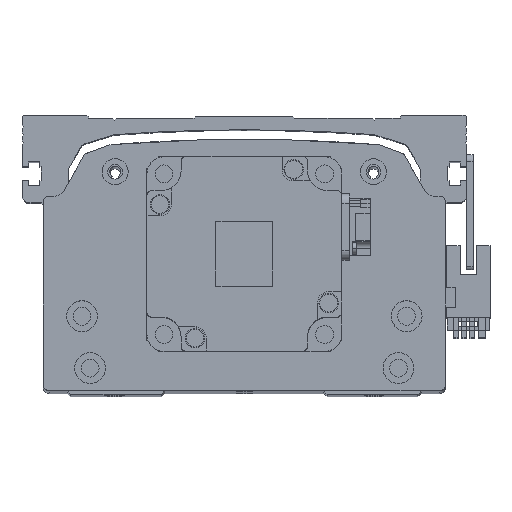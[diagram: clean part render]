
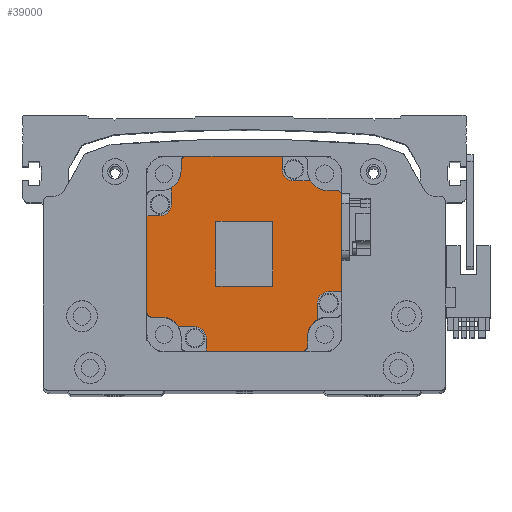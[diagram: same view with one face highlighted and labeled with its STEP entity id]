
A CAD part, top view. The second image highlights one B-rep face of the part: STEP entity #39000.
In plain terms, the highlighted planar face has unit normal (0, 0, 1) as drawn and (0, 0, -1) by its records, which use the part's own axes.
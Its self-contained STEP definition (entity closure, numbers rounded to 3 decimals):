
#36230=CARTESIAN_POINT('',(30.,-30.,-80.));
#36240=DIRECTION('',(0.,0.,-1.));
#36250=DIRECTION('',(-1.,0.,0.));
#36260=AXIS2_PLACEMENT_3D('',#36230,#36240,#36250);
#36270=PLANE('',#36260);
#36280=CARTESIAN_POINT('',(10.,-30.,-80.));
#36290=DIRECTION('',(0.,1.,0.));
#36300=VECTOR('',#36290,1000.);
#36310=LINE('',#36280,#36300);
#36320=CARTESIAN_POINT('',(10.,-8.75,-80.));
#36330=VERTEX_POINT('',#36320);
#36340=CARTESIAN_POINT('',(10.,8.75,-80.));
#36350=VERTEX_POINT('',#36340);
#36360=EDGE_CURVE('',#36330,#36350,#36310,.T.);
#36370=ORIENTED_EDGE('',*,*,#36360,.T.);
#36380=CARTESIAN_POINT('',(30.,-8.75,-80.));
#36390=DIRECTION('',(1.,-0.,0.));
#36400=VECTOR('',#36390,1000.);
#36410=LINE('',#36380,#36400);
#36420=CARTESIAN_POINT('',(-10.,-8.75,-80.));
#36430=VERTEX_POINT('',#36420);
#36440=EDGE_CURVE('',#36430,#36330,#36410,.T.);
#36450=ORIENTED_EDGE('',*,*,#36440,.T.);
#36460=CARTESIAN_POINT('',(-10.,-30.,-80.));
#36470=DIRECTION('',(-0.,-1.,-0.));
#36480=VECTOR('',#36470,1000.);
#36490=LINE('',#36460,#36480);
#36500=CARTESIAN_POINT('',(-10.,8.75,-80.));
#36510=VERTEX_POINT('',#36500);
#36520=EDGE_CURVE('',#36510,#36430,#36490,.T.);
#36530=ORIENTED_EDGE('',*,*,#36520,.T.);
#36540=CARTESIAN_POINT('',(30.,8.75,-80.));
#36550=DIRECTION('',(-1.,0.,-0.));
#36560=VECTOR('',#36550,1000.);
#36570=LINE('',#36540,#36560);
#36580=EDGE_CURVE('',#36350,#36510,#36570,.T.);
#36590=ORIENTED_EDGE('',*,*,#36580,.T.);
#36600=EDGE_LOOP('',(#36590,#36530,#36450,#36370));
#36610=FACE_BOUND('',#36600,.T.);
#36620=CARTESIAN_POINT('',(18.,28.5,-80.));
#36630=DIRECTION('',(0.,0.,-1.));
#36640=DIRECTION('',(-1.,0.,0.));
#36650=AXIS2_PLACEMENT_3D('',#36620,#36630,#36640);
#36660=CIRCLE('',#36650,1.5);
#36670=CARTESIAN_POINT('',(18.,30.,-80.));
#36680=VERTEX_POINT('',#36670);
#36690=CARTESIAN_POINT('',(19.5,28.5,-80.));
#36700=VERTEX_POINT('',#36690);
#36710=EDGE_CURVE('',#36680,#36700,#36660,.T.);
#36720=ORIENTED_EDGE('',*,*,#36710,.T.);
#36730=CARTESIAN_POINT('',(30.,30.,-80.));
#36740=DIRECTION('',(1.,-0.,0.));
#36750=VECTOR('',#36740,1000.);
#36760=LINE('',#36730,#36750);
#36770=CARTESIAN_POINT('',(-11.7,30.,-80.));
#36780=VERTEX_POINT('',#36770);
#36790=EDGE_CURVE('',#36780,#36680,#36760,.T.);
#36800=ORIENTED_EDGE('',*,*,#36790,.T.);
#36810=CARTESIAN_POINT('',(-11.7,-30.,-80.));
#36820=DIRECTION('',(0.,1.,0.));
#36830=VECTOR('',#36820,1000.);
#36840=LINE('',#36810,#36830);
#36850=CARTESIAN_POINT('',(-11.7,26.,-80.));
#36860=VERTEX_POINT('',#36850);
#36870=EDGE_CURVE('',#36860,#36780,#36840,.T.);
#36880=ORIENTED_EDGE('',*,*,#36870,.T.);
#36890=CARTESIAN_POINT('',(-15.2,26.,-80.));
#36900=DIRECTION('',(-0.,-0.,1.));
#36910=DIRECTION('',(-1.,0.,0.));
#36920=AXIS2_PLACEMENT_3D('',#36890,#36900,#36910);
#36930=CIRCLE('',#36920,3.5);
#36940=CARTESIAN_POINT('',(-15.2,22.5,-80.));
#36950=VERTEX_POINT('',#36940);
#36960=EDGE_CURVE('',#36950,#36860,#36930,.T.);
#36970=ORIENTED_EDGE('',*,*,#36960,.T.);
#36980=CARTESIAN_POINT('',(30.,22.5,-80.));
#36990=DIRECTION('',(1.,-0.,0.));
#37000=VECTOR('',#36990,1000.);
#37010=LINE('',#36980,#37000);
#37020=CARTESIAN_POINT('',(-20.304,22.5,-80.));
#37030=VERTEX_POINT('',#37020);
#37040=EDGE_CURVE('',#37030,#36950,#37010,.T.);
#37050=ORIENTED_EDGE('',*,*,#37040,.T.);
#37060=CARTESIAN_POINT('',(-25.5,25.5,-80.));
#37070=DIRECTION('',(-0.,-0.,1.));
#37080=DIRECTION('',(-1.,0.,0.));
#37090=AXIS2_PLACEMENT_3D('',#37060,#37070,#37080);
#37100=CIRCLE('',#37090,6.);
#37110=CARTESIAN_POINT('',(-25.5,19.5,-80.));
#37120=VERTEX_POINT('',#37110);
#37130=EDGE_CURVE('',#37120,#37030,#37100,.T.);
#37140=ORIENTED_EDGE('',*,*,#37130,.T.);
#37150=CARTESIAN_POINT('',(30.,19.5,-80.));
#37160=DIRECTION('',(1.,-0.,0.));
#37170=VECTOR('',#37160,1000.);
#37180=LINE('',#37150,#37170);
#37190=CARTESIAN_POINT('',(-28.5,19.5,-80.));
#37200=VERTEX_POINT('',#37190);
#37210=EDGE_CURVE('',#37200,#37120,#37180,.T.);
#37220=ORIENTED_EDGE('',*,*,#37210,.T.);
#37230=CARTESIAN_POINT('',(-28.5,18.,-80.));
#37240=DIRECTION('',(0.,0.,-1.));
#37250=DIRECTION('',(-1.,0.,0.));
#37260=AXIS2_PLACEMENT_3D('',#37230,#37240,#37250);
#37270=CIRCLE('',#37260,1.5);
#37280=CARTESIAN_POINT('',(-30.,18.,-80.));
#37290=VERTEX_POINT('',#37280);
#37300=EDGE_CURVE('',#37290,#37200,#37270,.T.);
#37310=ORIENTED_EDGE('',*,*,#37300,.T.);
#37320=CARTESIAN_POINT('',(-30.,-30.,-80.));
#37330=DIRECTION('',(0.,1.,0.));
#37340=VECTOR('',#37330,1000.);
#37350=LINE('',#37320,#37340);
#37360=CARTESIAN_POINT('',(-30.,-11.7,-80.));
#37370=VERTEX_POINT('',#37360);
#37380=EDGE_CURVE('',#37370,#37290,#37350,.T.);
#37390=ORIENTED_EDGE('',*,*,#37380,.T.);
#37400=CARTESIAN_POINT('',(30.,-11.7,-80.));
#37410=DIRECTION('',(-1.,0.,-0.));
#37420=VECTOR('',#37410,1000.);
#37430=LINE('',#37400,#37420);
#37440=CARTESIAN_POINT('',(-26.,-11.7,-80.));
#37450=VERTEX_POINT('',#37440);
#37460=EDGE_CURVE('',#37450,#37370,#37430,.T.);
#37470=ORIENTED_EDGE('',*,*,#37460,.T.);
#37480=CARTESIAN_POINT('',(-26.,-15.2,-80.));
#37490=DIRECTION('',(-0.,-0.,1.));
#37500=DIRECTION('',(-1.,0.,0.));
#37510=AXIS2_PLACEMENT_3D('',#37480,#37490,#37500);
#37520=CIRCLE('',#37510,3.5);
#37530=CARTESIAN_POINT('',(-22.5,-15.2,-80.));
#37540=VERTEX_POINT('',#37530);
#37550=EDGE_CURVE('',#37540,#37450,#37520,.T.);
#37560=ORIENTED_EDGE('',*,*,#37550,.T.);
#37570=CARTESIAN_POINT('',(-22.5,-30.,-80.));
#37580=DIRECTION('',(0.,1.,0.));
#37590=VECTOR('',#37580,1000.);
#37600=LINE('',#37570,#37590);
#37610=CARTESIAN_POINT('',(-22.5,-20.304,-80.));
#37620=VERTEX_POINT('',#37610);
#37630=EDGE_CURVE('',#37620,#37540,#37600,.T.);
#37640=ORIENTED_EDGE('',*,*,#37630,.T.);
#37650=CARTESIAN_POINT('',(-25.5,-25.5,-80.));
#37660=DIRECTION('',(-0.,-0.,1.));
#37670=DIRECTION('',(-1.,0.,0.));
#37680=AXIS2_PLACEMENT_3D('',#37650,#37660,#37670);
#37690=CIRCLE('',#37680,6.);
#37700=CARTESIAN_POINT('',(-19.5,-25.5,-80.));
#37710=VERTEX_POINT('',#37700);
#37720=EDGE_CURVE('',#37710,#37620,#37690,.T.);
#37730=ORIENTED_EDGE('',*,*,#37720,.T.);
#37740=CARTESIAN_POINT('',(-19.5,-30.,-80.));
#37750=DIRECTION('',(0.,1.,0.));
#37760=VECTOR('',#37750,1000.);
#37770=LINE('',#37740,#37760);
#37780=CARTESIAN_POINT('',(-19.5,-28.5,-80.));
#37790=VERTEX_POINT('',#37780);
#37800=EDGE_CURVE('',#37790,#37710,#37770,.T.);
#37810=ORIENTED_EDGE('',*,*,#37800,.T.);
#37820=CARTESIAN_POINT('',(-18.,-28.5,-80.));
#37830=DIRECTION('',(0.,0.,-1.));
#37840=DIRECTION('',(-1.,0.,0.));
#37850=AXIS2_PLACEMENT_3D('',#37820,#37830,#37840);
#37860=CIRCLE('',#37850,1.5);
#37870=CARTESIAN_POINT('',(-18.,-30.,-80.));
#37880=VERTEX_POINT('',#37870);
#37890=EDGE_CURVE('',#37880,#37790,#37860,.T.);
#37900=ORIENTED_EDGE('',*,*,#37890,.T.);
#37910=CARTESIAN_POINT('',(30.,-30.,-80.));
#37920=DIRECTION('',(-1.,0.,-0.));
#37930=VECTOR('',#37920,1000.);
#37940=LINE('',#37910,#37930);
#37950=CARTESIAN_POINT('',(11.7,-30.,-80.));
#37960=VERTEX_POINT('',#37950);
#37970=EDGE_CURVE('',#37960,#37880,#37940,.T.);
#37980=ORIENTED_EDGE('',*,*,#37970,.T.);
#37990=CARTESIAN_POINT('',(11.7,-30.,-80.));
#38000=DIRECTION('',(-0.,-1.,-0.));
#38010=VECTOR('',#38000,1000.);
#38020=LINE('',#37990,#38010);
#38030=CARTESIAN_POINT('',(11.7,-26.,-80.));
#38040=VERTEX_POINT('',#38030);
#38050=EDGE_CURVE('',#38040,#37960,#38020,.T.);
#38060=ORIENTED_EDGE('',*,*,#38050,.T.);
#38070=CARTESIAN_POINT('',(15.2,-26.,-80.));
#38080=DIRECTION('',(-0.,-0.,1.));
#38090=DIRECTION('',(-1.,0.,0.));
#38100=AXIS2_PLACEMENT_3D('',#38070,#38080,#38090);
#38110=CIRCLE('',#38100,3.5);
#38120=CARTESIAN_POINT('',(15.2,-22.5,-80.));
#38130=VERTEX_POINT('',#38120);
#38140=EDGE_CURVE('',#38130,#38040,#38110,.T.);
#38150=ORIENTED_EDGE('',*,*,#38140,.T.);
#38160=CARTESIAN_POINT('',(30.,-22.5,-80.));
#38170=DIRECTION('',(-1.,0.,-0.));
#38180=VECTOR('',#38170,1000.);
#38190=LINE('',#38160,#38180);
#38200=CARTESIAN_POINT('',(20.304,-22.5,-80.));
#38210=VERTEX_POINT('',#38200);
#38220=EDGE_CURVE('',#38210,#38130,#38190,.T.);
#38230=ORIENTED_EDGE('',*,*,#38220,.T.);
#38240=CARTESIAN_POINT('',(25.5,-25.5,-80.));
#38250=DIRECTION('',(-0.,-0.,1.));
#38260=DIRECTION('',(-1.,0.,0.));
#38270=AXIS2_PLACEMENT_3D('',#38240,#38250,#38260);
#38280=CIRCLE('',#38270,6.);
#38290=CARTESIAN_POINT('',(25.5,-19.5,-80.));
#38300=VERTEX_POINT('',#38290);
#38310=EDGE_CURVE('',#38300,#38210,#38280,.T.);
#38320=ORIENTED_EDGE('',*,*,#38310,.T.);
#38330=CARTESIAN_POINT('',(30.,-19.5,-80.));
#38340=DIRECTION('',(-1.,0.,-0.));
#38350=VECTOR('',#38340,1000.);
#38360=LINE('',#38330,#38350);
#38370=CARTESIAN_POINT('',(28.5,-19.5,-80.));
#38380=VERTEX_POINT('',#38370);
#38390=EDGE_CURVE('',#38380,#38300,#38360,.T.);
#38400=ORIENTED_EDGE('',*,*,#38390,.T.);
#38410=CARTESIAN_POINT('',(28.5,-18.,-80.));
#38420=DIRECTION('',(0.,0.,-1.));
#38430=DIRECTION('',(-1.,0.,0.));
#38440=AXIS2_PLACEMENT_3D('',#38410,#38420,#38430);
#38450=CIRCLE('',#38440,1.5);
#38460=CARTESIAN_POINT('',(30.,-18.,-80.));
#38470=VERTEX_POINT('',#38460);
#38480=EDGE_CURVE('',#38470,#38380,#38450,.T.);
#38490=ORIENTED_EDGE('',*,*,#38480,.T.);
#38500=CARTESIAN_POINT('',(30.,-30.,-80.));
#38510=DIRECTION('',(-0.,-1.,-0.));
#38520=VECTOR('',#38510,1000.);
#38530=LINE('',#38500,#38520);
#38540=CARTESIAN_POINT('',(30.,11.7,-80.));
#38550=VERTEX_POINT('',#38540);
#38560=EDGE_CURVE('',#38550,#38470,#38530,.T.);
#38570=ORIENTED_EDGE('',*,*,#38560,.T.);
#38580=CARTESIAN_POINT('',(30.,11.7,-80.));
#38590=DIRECTION('',(1.,-0.,0.));
#38600=VECTOR('',#38590,1000.);
#38610=LINE('',#38580,#38600);
#38620=CARTESIAN_POINT('',(26.,11.7,-80.));
#38630=VERTEX_POINT('',#38620);
#38640=EDGE_CURVE('',#38630,#38550,#38610,.T.);
#38650=ORIENTED_EDGE('',*,*,#38640,.T.);
#38660=CARTESIAN_POINT('',(26.,15.2,-80.));
#38670=DIRECTION('',(-0.,-0.,1.));
#38680=DIRECTION('',(-1.,0.,0.));
#38690=AXIS2_PLACEMENT_3D('',#38660,#38670,#38680);
#38700=CIRCLE('',#38690,3.5);
#38710=CARTESIAN_POINT('',(22.5,15.2,-80.));
#38720=VERTEX_POINT('',#38710);
#38730=EDGE_CURVE('',#38720,#38630,#38700,.T.);
#38740=ORIENTED_EDGE('',*,*,#38730,.T.);
#38750=CARTESIAN_POINT('',(22.5,-30.,-80.));
#38760=DIRECTION('',(-0.,-1.,-0.));
#38770=VECTOR('',#38760,1000.);
#38780=LINE('',#38750,#38770);
#38790=CARTESIAN_POINT('',(22.5,20.304,-80.));
#38800=VERTEX_POINT('',#38790);
#38810=EDGE_CURVE('',#38800,#38720,#38780,.T.);
#38820=ORIENTED_EDGE('',*,*,#38810,.T.);
#38830=CARTESIAN_POINT('',(25.5,25.5,-80.));
#38840=DIRECTION('',(-0.,-0.,1.));
#38850=DIRECTION('',(-1.,0.,0.));
#38860=AXIS2_PLACEMENT_3D('',#38830,#38840,#38850);
#38870=CIRCLE('',#38860,6.);
#38880=CARTESIAN_POINT('',(19.5,25.5,-80.));
#38890=VERTEX_POINT('',#38880);
#38900=EDGE_CURVE('',#38890,#38800,#38870,.T.);
#38910=ORIENTED_EDGE('',*,*,#38900,.T.);
#38920=CARTESIAN_POINT('',(19.5,-30.,-80.));
#38930=DIRECTION('',(-0.,-1.,-0.));
#38940=VECTOR('',#38930,1000.);
#38950=LINE('',#38920,#38940);
#38960=EDGE_CURVE('',#36700,#38890,#38950,.T.);
#38970=ORIENTED_EDGE('',*,*,#38960,.T.);
#38980=EDGE_LOOP('',(#38970,#38910,#38820,#38740,#38650,#38570,#38490,
#38400,#38320,#38230,#38150,#38060,#37980,#37900,#37810,#37730,#37640,
#37560,#37470,#37390,#37310,#37220,#37140,#37050,#36970,#36880,#36800,
#36720));
#38990=FACE_OUTER_BOUND('',#38980,.T.);
#39000=ADVANCED_FACE('',(#36610,#38990),#36270,.T.);
